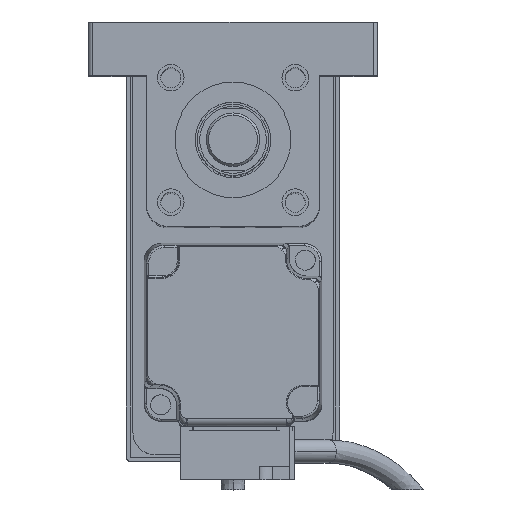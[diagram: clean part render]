
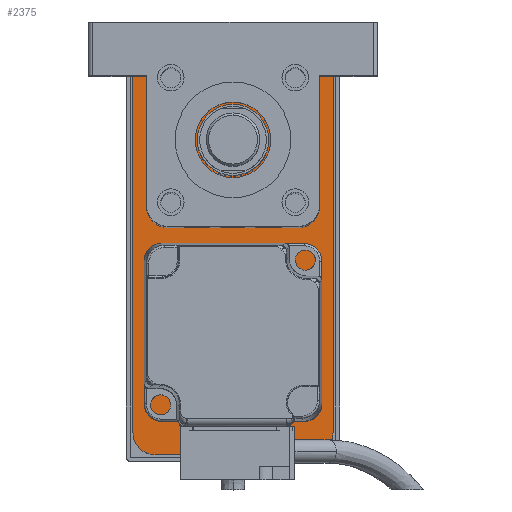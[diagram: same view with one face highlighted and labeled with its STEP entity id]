
A CAD part, top view. The second image highlights one B-rep face of the part: STEP entity #2375.
In plain terms, the highlighted planar face has unit normal (0, 0, 1).
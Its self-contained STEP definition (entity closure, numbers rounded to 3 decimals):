
#139 = CARTESIAN_POINT ( 'NONE',  ( -17.5, -45., 10. ) ) ;
#188 = ORIENTED_EDGE ( 'NONE', *, *, #686, .T. ) ;
#340 = CARTESIAN_POINT ( 'NONE',  ( -22.5, -40., 10. ) ) ;
#438 = DIRECTION ( 'NONE',  ( -1., 0., 0. ) ) ;
#686 = EDGE_CURVE ( 'NONE', #3807, #2271, #24745, .T. ) ;
#901 = ORIENTED_EDGE ( 'NONE', *, *, #10339, .T. ) ;
#1098 = AXIS2_PLACEMENT_3D ( 'NONE', #1913, #2172, #21696 ) ;
#1913 = CARTESIAN_POINT ( 'NONE',  ( -17.5, 40., 10. ) ) ;
#2172 = DIRECTION ( 'NONE',  ( 0., 0., 1. ) ) ;
#2260 = CARTESIAN_POINT ( 'NONE',  ( -17.5, 45., 10. ) ) ;
#2271 = VERTEX_POINT ( 'NONE', #16913 ) ;
#2375 = ADVANCED_FACE ( 'NONE', ( #17781 ), #9269, .T. ) ;
#3347 = DIRECTION ( 'NONE',  ( 0., 0., 1. ) ) ;
#3475 = DIRECTION ( 'NONE',  ( 1., 0., 0. ) ) ;
#3487 = DIRECTION ( 'NONE',  ( 0., 0., 1. ) ) ;
#3746 = CARTESIAN_POINT ( 'NONE',  ( 17.5, -40., 10. ) ) ;
#3807 = VERTEX_POINT ( 'NONE', #23181 ) ;
#3914 = CIRCLE ( 'NONE', #13035, 5. ) ;
#4350 = ORIENTED_EDGE ( 'NONE', *, *, #14362, .T. ) ;
#4380 = DIRECTION ( 'NONE',  ( 1., 0., 0. ) ) ;
#4687 = CIRCLE ( 'NONE', #15572, 5. ) ;
#5130 = AXIS2_PLACEMENT_3D ( 'NONE', #3746, #9537, #23371 ) ;
#5387 = DIRECTION ( 'NONE',  ( 1., 0., 0. ) ) ;
#6236 = DIRECTION ( 'NONE',  ( 0., 1., 0. ) ) ;
#6849 = VERTEX_POINT ( 'NONE', #139 ) ;
#7662 = ORIENTED_EDGE ( 'NONE', *, *, #9074, .T. ) ;
#9074 = EDGE_CURVE ( 'NONE', #20923, #20378, #22511, .T. ) ;
#9269 = PLANE ( 'NONE',  #10276 ) ;
#9537 = DIRECTION ( 'NONE',  ( 0., 0., 1. ) ) ;
#10276 = AXIS2_PLACEMENT_3D ( 'NONE', #13222, #23102, #3475 ) ;
#10339 = EDGE_CURVE ( 'NONE', #12211, #22249, #18741, .T. ) ;
#10437 = EDGE_CURVE ( 'NONE', #17285, #20923, #3914, .T. ) ;
#11248 = CARTESIAN_POINT ( 'NONE',  ( -22.5, -45., 10. ) ) ;
#12211 = VERTEX_POINT ( 'NONE', #22534 ) ;
#12370 = CARTESIAN_POINT ( 'NONE',  ( 22.5, -45., 10. ) ) ;
#12896 = DIRECTION ( 'NONE',  ( 0., -1., 0. ) ) ;
#13035 = AXIS2_PLACEMENT_3D ( 'NONE', #13574, #3487, #5387 ) ;
#13099 = CARTESIAN_POINT ( 'NONE',  ( 17.5, 45., 10. ) ) ;
#13222 = CARTESIAN_POINT ( 'NONE',  ( 0., 0., 10. ) ) ;
#13408 = LINE ( 'NONE', #12370, #23041 ) ;
#13574 = CARTESIAN_POINT ( 'NONE',  ( 17.5, 40., 10. ) ) ;
#13647 = EDGE_LOOP ( 'NONE', ( #4350, #16674, #7662, #14909, #901, #24537, #15813, #188 ) ) ;
#14362 = EDGE_CURVE ( 'NONE', #2271, #17285, #13408, .T. ) ;
#14909 = ORIENTED_EDGE ( 'NONE', *, *, #22011, .T. ) ;
#15049 = VECTOR ( 'NONE', #438, 1000. ) ;
#15160 = CARTESIAN_POINT ( 'NONE',  ( -17.5, -40., 10. ) ) ;
#15345 = EDGE_CURVE ( 'NONE', #6849, #3807, #22994, .T. ) ;
#15572 = AXIS2_PLACEMENT_3D ( 'NONE', #15160, #3347, #19140 ) ;
#15813 = ORIENTED_EDGE ( 'NONE', *, *, #15345, .T. ) ;
#16674 = ORIENTED_EDGE ( 'NONE', *, *, #10437, .T. ) ;
#16913 = CARTESIAN_POINT ( 'NONE',  ( 22.5, -40., 10. ) ) ;
#17243 = EDGE_CURVE ( 'NONE', #22249, #6849, #4687, .T. ) ;
#17285 = VERTEX_POINT ( 'NONE', #21469 ) ;
#17781 = FACE_OUTER_BOUND ( 'NONE', #13647, .T. ) ;
#18741 = LINE ( 'NONE', #11248, #23100 ) ;
#19140 = DIRECTION ( 'NONE',  ( 1., 0., 0. ) ) ;
#19835 = VECTOR ( 'NONE', #4380, 1000. ) ;
#20378 = VERTEX_POINT ( 'NONE', #2260 ) ;
#20923 = VERTEX_POINT ( 'NONE', #13099 ) ;
#21469 = CARTESIAN_POINT ( 'NONE',  ( 22.5, 40., 10. ) ) ;
#21696 = DIRECTION ( 'NONE',  ( 1., 0., 0. ) ) ;
#21925 = CARTESIAN_POINT ( 'NONE',  ( 22.5, -45., 10. ) ) ;
#22011 = EDGE_CURVE ( 'NONE', #20378, #12211, #23699, .T. ) ;
#22249 = VERTEX_POINT ( 'NONE', #340 ) ;
#22511 = LINE ( 'NONE', #24167, #15049 ) ;
#22534 = CARTESIAN_POINT ( 'NONE',  ( -22.5, 40., 10. ) ) ;
#22994 = LINE ( 'NONE', #21925, #19835 ) ;
#23041 = VECTOR ( 'NONE', #6236, 1000. ) ;
#23100 = VECTOR ( 'NONE', #12896, 1000. ) ;
#23102 = DIRECTION ( 'NONE',  ( 0., 0., 1. ) ) ;
#23181 = CARTESIAN_POINT ( 'NONE',  ( 17.5, -45., 10. ) ) ;
#23371 = DIRECTION ( 'NONE',  ( 1., 0., 0. ) ) ;
#23699 = CIRCLE ( 'NONE', #1098, 5. ) ;
#24167 = CARTESIAN_POINT ( 'NONE',  ( 22.5, 45., 10. ) ) ;
#24537 = ORIENTED_EDGE ( 'NONE', *, *, #17243, .T. ) ;
#24745 = CIRCLE ( 'NONE', #5130, 5. ) ;
